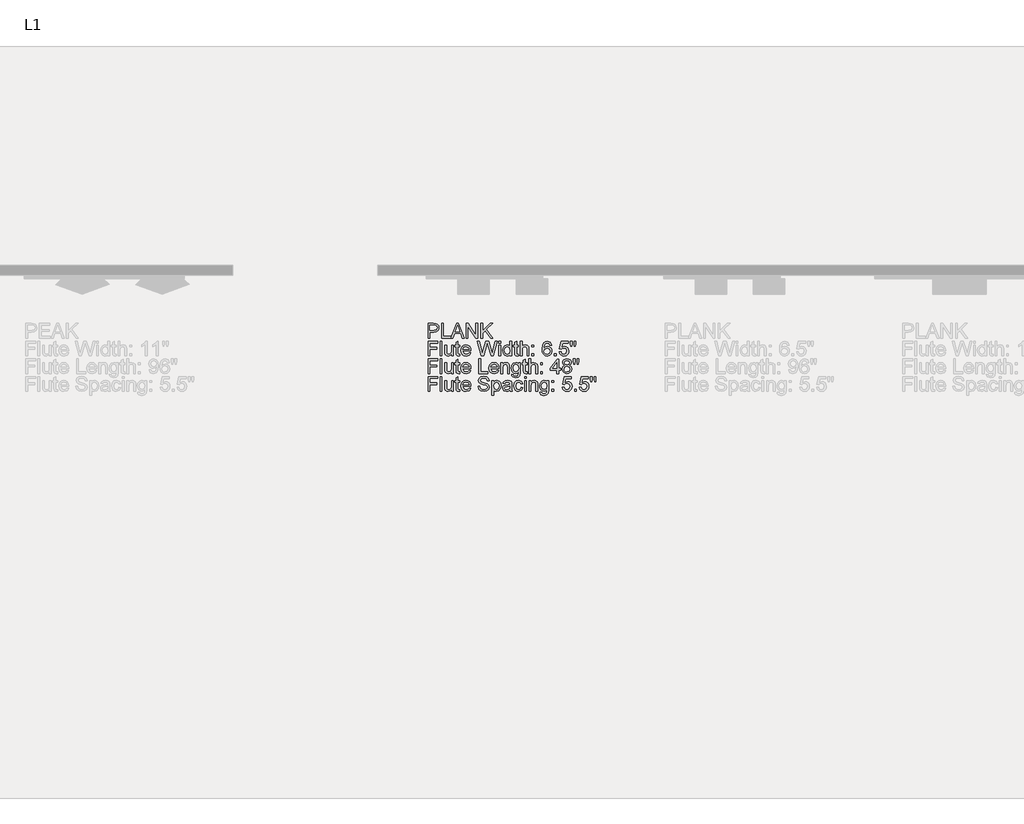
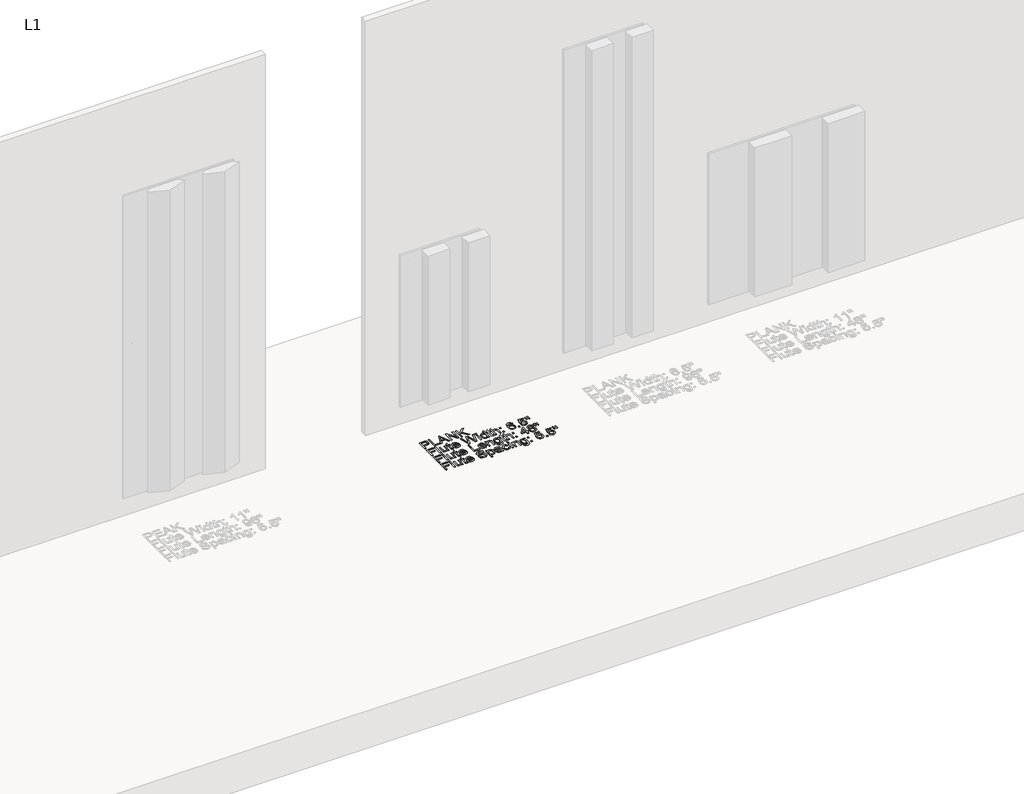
# One storey, part 12 of 17: 1 proxy.
"""IFC4 building model written with IfcOpenShell, lengths in millimetres."""

from ifc_helpers import new_model, si_unit, origin, origin_with_axes, place, context, project, spatial, polyline, outline, extrude, element, save

model = new_model("IFC4")

# Units and contexts
model_context = context("Model", 3, world=origin())
ifc_project = project(units=[si_unit("LENGTHUNIT", "METRE", prefix="MILLI")], contexts=[model_context])

# Site, building, storey
site = spatial("IfcSite", under=ifc_project)
building = spatial("IfcBuilding", under=site)
storey = spatial("IfcBuildingStorey", under=building, Name="L1", Elevation=0.0)

# Proxy
placement = place(None, origin())
element("IfcBuildingElementProxy", 1, Name="3\" Arial", ObjectType="3\" Arial", at=placement, inside=storey, context=model_context, shape_type="SweptSolid", body=[
    extrude(outline(polyline([(13654.5224056, -355.6), (13654.5224056, -279.0522917), (13682.8914049, -279.0522917), (13694.328709, -279.7811395), (13703.6261907, -283.3599691), (13709.6532014, -290.7605776), (13711.9331868, -301.198052), (13710.3937295, -310.2198797), (13705.7753573, -317.7372908), (13697.138978, -322.8111928), (13683.5454991, -324.5024935), (13664.0908691, -324.5024935), (13664.0908691, -355.6), (13654.5224056, -355.6)]), holes=[polyline([(13664.0908691, -314.9340299), (13684.1061513, -314.9340299), (13698.1972089, -311.4206097), (13702.3647233, -301.5344433), (13699.907198, -293.6105594), (13693.450354, -289.2748494), (13683.8818904, -288.6207552), (13664.0908691, -288.6207552), (13664.0908691, -314.9340299)])]), origin_with_axes(), (0.0, 0.0, 1.0), 3.175),
    extrude(outline(polyline([(13725.0898242, -355.6), (13725.0898242, -279.0522917), (13734.6582878, -279.0522917), (13734.6582878, -346.0315365), (13772.9321419, -346.0315365), (13772.9321419, -355.6), (13725.0898242, -355.6)])), origin_with_axes(), (0.0, 0.0, 1.0), 3.175),
    extrude(outline(polyline([(13774.8009825, -355.6), (13805.3565252, -279.0522917), (13813.50467, -279.0522917), (13844.0415243, -355.6), (13833.931097, -355.6), (13825.1849233, -331.6788411), (13793.6388951, -331.6788411), (13784.8927214, -355.6), (13774.8009825, -355.6)]), holes=[polyline([(13797.1523153, -322.1103776), (13821.6901915, -322.1103776), (13814.7754815, -303.2911534), (13809.4119092, -288.6207552), (13804.6463658, -301.6465737), (13797.1523153, -322.1103776)])]), origin_with_axes(), (0.0, 0.0, 1.0), 3.175),
    extrude(outline(polyline([(13854.264082, -355.6), (13854.264082, -279.0522917), (13864.5053282, -279.0522917), (13904.4985156, -339.696167), (13904.4985156, -279.0522917), (13914.0669792, -279.0522917), (13914.0669792, -355.6), (13903.825733, -355.6), (13863.8325456, -294.9374362), (13863.8325456, -355.6), (13854.264082, -355.6)])), origin_with_axes(), (0.0, 0.0, 1.0), 3.175),
    extrude(outline(polyline([(13930.8117904, -355.6), (13930.8117904, -279.0522917), (13940.3802539, -279.0522917), (13940.3802539, -316.5225444), (13979.6259052, -279.0522917), (13993.0068034, -279.0522917), (13960.0404563, -310.5235663), (13994.2028613, -355.6), (13982.5039196, -355.6), (13953.2565652, -316.9897545), (13940.3802539, -329.2867253), (13940.3802539, -355.6), (13930.8117904, -355.6)])), origin_with_axes(), (0.0, 0.0, 1.0), 3.175),
    extrude(outline(polyline([(13654.5224056, -448.5448112), (13654.5224056, -371.9971029), (13705.9528971, -371.9971029), (13705.9528971, -381.5655664), (13664.0908691, -381.5655664), (13664.0908691, -404.2906673), (13699.9726074, -404.2906673), (13699.9726074, -413.8591309), (13664.0908691, -413.8591309), (13664.0908691, -448.5448112), (13654.5224056, -448.5448112)])), origin_with_axes(), (0.0, 0.0, 1.0), 3.175),
    extrude(outline(polyline([(13717.9134766, -448.5448112), (13717.9134766, -371.9971029), (13727.4819401, -371.9971029), (13727.4819401, -448.5448112), (13717.9134766, -448.5448112)])), origin_with_axes(), (0.0, 0.0, 1.0), 3.175),
    extrude(outline(polyline([(13777.7163737, -448.5448112), (13777.7163737, -438.8829056), (13770.2223232, -447.0263783), (13760.4482872, -449.7408691), (13751.44982, -447.8346518), (13745.2452694, -443.05042), (13742.3952876, -436.0048912), (13741.8346354, -427.1092103), (13741.8346354, -392.3300879), (13751.403099, -392.3300879), (13751.403099, -422.6053046), (13751.9824395, -432.3606522), (13755.7668416, -438.0886484), (13762.8964683, -440.1724056), (13770.8857615, -438.0419274), (13776.1652361, -432.2391775), (13777.7163737, -421.5774423), (13777.7163737, -392.3300879), (13787.2848372, -392.3300879), (13787.2848372, -448.5448112), (13777.7163737, -448.5448112)])), origin_with_axes(), (0.0, 0.0, 1.0), 3.175),
    extrude(outline(polyline([(13820.7744596, -440.5648621), (13821.9705176, -448.8251373), (13814.8128583, -449.7408691), (13806.7955324, -448.1523547), (13802.7962137, -443.9848403), (13801.6375326, -433.1268768), (13801.6375326, -401.8985514), (13794.4611849, -401.8985514), (13794.4611849, -392.3300879), (13801.6375326, -392.3300879), (13801.6375326, -378.6688636), (13811.2059961, -373.0436536), (13811.2059961, -392.3300879), (13820.7744596, -392.3300879), (13820.7744596, -401.8985514), (13811.2059961, -401.8985514), (13811.2059961, -432.8465507), (13811.710583, -437.7802897), (13813.3458185, -439.5276556), (13816.6069452, -440.1724056), (13820.7744596, -440.5648621)])), origin_with_axes(), (0.0, 0.0, 1.0), 3.175),
    extrude(outline(polyline([(13869.7007049, -431.8), (13879.0822843, -432.9960579), (13870.308078, -445.3490939), (13853.9650675, -449.7408691), (13842.738008, -447.846332), (13834.0992927, -442.1627208), (13828.5908852, -433.0591313), (13826.7547494, -420.9046597), (13828.6095736, -408.3413792), (13834.1740463, -398.9457834), (13842.6959591, -393.0869683), (13853.4231038, -391.1340299), (13863.8161932, -393.0822962), (13872.1208533, -398.927095), (13877.5661875, -408.3040024), (13879.3812988, -420.8485945), (13879.3252336, -423.4275944), (13836.3232129, -423.4275944), (13841.8269483, -435.855384), (13854.1519516, -440.1724056), (13863.5335311, -438.1727462), (13869.7007049, -431.8)]), holes=[polyline([(13836.3232129, -413.8591309), (13869.8128353, -413.8591309), (13865.9817122, -405.1877108), (13853.385727, -400.7024935), (13841.6026874, -404.2813231), (13836.3232129, -413.8591309)])]), origin_with_axes(), (0.0, 0.0, 1.0), 3.175),
    extrude(outline(polyline([(13933.74587, -448.5448112), (13912.8709212, -371.9971029), (13922.7383993, -371.9971029), (13934.8484859, -422.3062901), (13938.586167, -437.8363549), (13942.5854857, -424.100377), (13957.7604709, -371.9971029), (13971.9823474, -371.9971029), (13983.0085065, -409.7663701), (13991.2127165, -437.8363549), (13994.8382671, -422.7548118), (14007.0417958, -371.9971029), (14016.9279622, -371.9971029), (13996.0717019, -448.5448112), (13985.8304557, -448.5448112), (13967.4597533, -389.4894503), (13964.8994417, -381.2478635), (13962.0214273, -391.1714068), (13945.2953045, -448.5448112), (13933.74587, -448.5448112)])), origin_with_axes(), (0.0, 0.0, 1.0), 3.175),
    extrude(outline(polyline([(14025.3003678, -381.5655664), (14025.3003678, -371.9971029), (14034.8688314, -371.9971029), (14034.8688314, -381.5655664), (14025.3003678, -381.5655664)])), origin_with_axes(), (0.0, 0.0, 1.0), 3.175),
    extrude(outline(polyline([(14025.3003678, -448.5448112), (14025.3003678, -392.3300879), (14034.8688314, -392.3300879), (14034.8688314, -448.5448112), (14025.3003678, -448.5448112)])), origin_with_axes(), (0.0, 0.0, 1.0), 3.175),
    extrude(outline(polyline([(14083.907207, -448.5448112), (14083.907207, -439.5183114), (14077.5765097, -447.1852297), (14068.8256639, -449.7408691), (14056.9772149, -446.0405649), (14048.6048093, -435.7152209), (14045.6333529, -420.4935148), (14048.3712043, -405.2624644), (14056.5754142, -394.778269), (14068.7882871, -391.1340299), (14077.6092144, -393.7410625), (14083.907207, -400.5156094), (14083.907207, -371.9971029), (14093.4756706, -371.9971029), (14093.4756706, -448.5448112), (14083.907207, -448.5448112)]), holes=[polyline([(14055.2018164, -420.4561379), (14059.518838, -435.2666992), (14069.704019, -440.1724056), (14079.7677252, -435.4909601), (14083.907207, -421.1849858), (14079.6929716, -405.6549209), (14069.3115625, -400.7024935), (14059.238512, -405.4586927), (14055.2018164, -420.4561379)])]), origin_with_axes(), (0.0, 0.0, 1.0), 3.175),
    extrude(outline(polyline([(14128.1613509, -440.5648621), (14129.3574089, -448.8251373), (14122.1997496, -449.7408691), (14114.1824237, -448.1523547), (14110.183105, -443.9848403), (14109.0244238, -433.1268768), (14109.0244238, -401.8985514), (14101.8480762, -401.8985514), (14101.8480762, -392.3300879), (14109.0244238, -392.3300879), (14109.0244238, -378.6688636), (14118.5928874, -373.0436536), (14118.5928874, -392.3300879), (14128.1613509, -392.3300879), (14128.1613509, -401.8985514), (14118.5928874, -401.8985514), (14118.5928874, -432.8465507), (14119.0974743, -437.7802897), (14120.7327098, -439.5276556), (14123.9938365, -440.1724056), (14128.1613509, -440.5648621)])), origin_with_axes(), (0.0, 0.0, 1.0), 3.175),
    extrude(outline(polyline([(14137.7298145, -448.5448112), (14137.7298145, -371.9971029), (14147.298278, -371.9971029), (14147.298278, -400.1418413), (14154.7596238, -393.3859828), (14163.9496472, -391.1340299), (14174.6954802, -393.5915553), (14181.2177337, -400.3847906), (14183.1800163, -412.9620874), (14183.1800163, -448.5448112), (14173.6115527, -448.5448112), (14173.6115527, -413.9525729), (14170.5653427, -403.860834), (14161.9312994, -400.7024935), (14154.0915133, -402.8329717), (14148.8587598, -408.607689), (14147.298278, -418.6807394), (14147.298278, -448.5448112), (14137.7298145, -448.5448112)])), origin_with_axes(), (0.0, 0.0, 1.0), 3.175),
    extrude(outline(polyline([(14198.7287695, -401.8985514), (14198.7287695, -392.3300879), (14208.2972331, -392.3300879), (14208.2972331, -401.8985514), (14198.7287695, -401.8985514)])), origin_with_axes(), (0.0, 0.0, 1.0), 3.175),
    extrude(outline(polyline([(14198.7287695, -448.5448112), (14198.7287695, -438.9763477), (14208.2972331, -438.9763477), (14208.2972331, -448.5448112), (14198.7287695, -448.5448112)])), origin_with_axes(), (0.0, 0.0, 1.0), 3.175),
    extrude(outline(polyline([(14302.7858106, -392.3300879), (14293.217347, -393.5261458), (14289.5917964, -385.5461967), (14280.0046444, -381.5655664), (14271.3706012, -383.8829287), (14264.8390035, -392.5823814), (14262.1198405, -409.6355512), (14270.5576555, -402.0013377), (14281.0138183, -399.5064355), (14289.853434, -401.2117525), (14297.272731, -406.3277035), (14302.3045841, -414.144129), (14303.9818685, -423.9508698), (14300.823528, -437.1542281), (14292.1334195, -446.4984308), (14279.5934995, -449.7408691), (14268.737872, -447.5917025), (14260.0921485, -441.1442027), (14254.4365698, -429.7629638), (14252.551377, -412.8125802), (14254.6444784, -393.7550788), (14260.9237826, -380.7245882), (14269.4970885, -374.1789742), (14280.6026734, -371.9971029), (14295.7215933, -377.398052), (14302.7858106, -392.3300879)]), holes=[polyline([(14262.1198405, -423.8013625), (14264.3344165, -432.0896703), (14270.2212642, -438.1073368), (14278.8459633, -440.1724056), (14290.1244159, -435.8927608), (14294.413405, -424.2685726), (14290.1804811, -413.1396273), (14278.4535068, -409.0748991), (14266.8760397, -413.1396273), (14262.1198405, -423.8013625)])]), origin_with_axes(), (0.0, 0.0, 1.0), 3.175),
    extrude(outline(polyline([(14317.1385059, -448.5448112), (14317.1385059, -438.9763477), (14326.7069694, -438.9763477), (14326.7069694, -448.5448112), (14317.1385059, -448.5448112)])), origin_with_axes(), (0.0, 0.0, 1.0), 3.175),
    extrude(outline(polyline([(14342.2557227, -428.2118262), (14351.8241862, -427.0157682), (14356.6457948, -436.8739021), (14366.6440917, -440.1724056), (14378.6420479, -435.5844021), (14382.9216927, -423.408906), (14378.9130298, -412.0463555), (14366.7935989, -407.8788411), (14358.3931607, -409.5421092), (14353.0202441, -413.8591309), (14343.4517806, -412.6630729), (14351.8241862, -373.1931608), (14388.9019824, -373.1931608), (14388.9019824, -382.7616243), (14359.561186, -382.7616243), (14355.4497368, -403.8421456), (14369.4473525, -398.3103776), (14378.3897544, -400.0250388), (14385.8183955, -405.1690224), (14390.8222161, -413.0088084), (14392.4901563, -422.810877), (14390.9904117, -432.3793406), (14386.4911781, -440.5648621), (14377.8758233, -447.4468674), (14366.6067148, -449.7408691), (14357.208783, -448.2668212), (14349.7217406, -443.8446773), (14344.5894373, -436.9883685), (14342.2557227, -428.2118262)])), origin_with_axes(), (0.0, 0.0, 1.0), 3.175),
    extrude(outline(polyline([(14403.1986125, -399.5064355), (14400.8625619, -384.7239069), (14400.8625619, -371.9971029), (14410.4310254, -371.9971029), (14410.4310254, -384.7239069), (14408.337924, -399.5064355), (14403.1986125, -399.5064355)])), origin_with_axes(), (0.0, 0.0, 1.0), 3.175),
    extrude(outline(polyline([(14422.2794744, -399.5064355), (14419.9994889, -384.7239069), (14419.9994889, -371.9971029), (14429.5679525, -371.9971029), (14429.5679525, -384.7239069), (14427.3253438, -399.5064355), (14422.2794744, -399.5064355)])), origin_with_axes(), (0.0, 0.0, 1.0), 3.175),
    extrude(outline(polyline([(13654.5224056, -541.4896224), (13654.5224056, -464.9419141), (13705.9528971, -464.9419141), (13705.9528971, -474.5103776), (13664.0908691, -474.5103776), (13664.0908691, -497.2354785), (13699.9726074, -497.2354785), (13699.9726074, -506.8039421), (13664.0908691, -506.8039421), (13664.0908691, -541.4896224), (13654.5224056, -541.4896224)])), origin_with_axes(), (0.0, 0.0, 1.0), 3.175),
    extrude(outline(polyline([(13717.9134766, -541.4896224), (13717.9134766, -464.9419141), (13727.4819401, -464.9419141), (13727.4819401, -541.4896224), (13717.9134766, -541.4896224)])), origin_with_axes(), (0.0, 0.0, 1.0), 3.175),
    extrude(outline(polyline([(13777.7163737, -541.4896224), (13777.7163737, -531.8277168), (13770.2223232, -539.9711895), (13760.4482872, -542.6856803), (13751.44982, -540.779463), (13745.2452694, -535.9952312), (13742.3952876, -528.9497024), (13741.8346354, -520.0540215), (13741.8346354, -485.2748991), (13751.403099, -485.2748991), (13751.403099, -515.5501158), (13751.9824395, -525.3054634), (13755.7668416, -531.0334596), (13762.8964683, -533.1172168), (13770.8857615, -530.9867386), (13776.1652361, -525.1839887), (13777.7163737, -514.5222535), (13777.7163737, -485.2748991), (13787.2848372, -485.2748991), (13787.2848372, -541.4896224), (13777.7163737, -541.4896224)])), origin_with_axes(), (0.0, 0.0, 1.0), 3.175),
    extrude(outline(polyline([(13820.7744596, -533.5096733), (13821.9705176, -541.7699485), (13814.8128583, -542.6856803), (13806.7955324, -541.0971659), (13802.7962137, -536.9296515), (13801.6375326, -526.071688), (13801.6375326, -494.8433626), (13794.4611849, -494.8433626), (13794.4611849, -485.2748991), (13801.6375326, -485.2748991), (13801.6375326, -471.6136748), (13811.2059961, -465.9884648), (13811.2059961, -485.2748991), (13820.7744596, -485.2748991), (13820.7744596, -494.8433626), (13811.2059961, -494.8433626), (13811.2059961, -525.7913619), (13811.710583, -530.7251009), (13813.3458185, -532.4724668), (13816.6069452, -533.1172168), (13820.7744596, -533.5096733)])), origin_with_axes(), (0.0, 0.0, 1.0), 3.175),
    extrude(outline(polyline([(13869.7007049, -524.7448112), (13879.0822843, -525.9408691), (13870.308078, -538.2939051), (13853.9650675, -542.6856803), (13842.738008, -540.7911432), (13834.0992927, -535.107532), (13828.5908852, -526.0039425), (13826.7547494, -513.8494709), (13828.6095736, -501.2861904), (13834.1740463, -491.8905946), (13842.6959591, -486.0317795), (13853.4231038, -484.0788411), (13863.8161932, -486.0271074), (13872.1208533, -491.8719062), (13877.5661875, -501.2488136), (13879.3812988, -513.7934057), (13879.3252336, -516.3724056), (13836.3232129, -516.3724056), (13841.8269483, -528.8001952), (13854.1519516, -533.1172168), (13863.5335311, -531.1175574), (13869.7007049, -524.7448112)]), holes=[polyline([(13836.3232129, -506.8039421), (13869.8128353, -506.8039421), (13865.9817122, -498.132522), (13853.385727, -493.6473047), (13841.6026874, -497.2261343), (13836.3232129, -506.8039421)])]), origin_with_axes(), (0.0, 0.0, 1.0), 3.175),
    extrude(outline(polyline([(13920.0472689, -541.4896224), (13920.0472689, -464.9419141), (13929.6157324, -464.9419141), (13929.6157324, -531.9211589), (13967.8895866, -531.9211589), (13967.8895866, -541.4896224), (13920.0472689, -541.4896224)])), origin_with_axes(), (0.0, 0.0, 1.0), 3.175),
    extrude(outline(polyline([(14016.8158318, -524.7448112), (14026.1974113, -525.9408691), (14017.423205, -538.2939051), (14001.0801945, -542.6856803), (13989.853135, -540.7911432), (13981.2144196, -535.107532), (13975.7060121, -526.0039425), (13973.8698763, -513.8494709), (13975.7247005, -501.2861904), (13981.2891732, -491.8905946), (13989.8110861, -486.0317795), (14000.5382307, -484.0788411), (14010.9313202, -486.0271074), (14019.2359803, -491.8719062), (14024.6813144, -501.2488136), (14026.4964258, -513.7934057), (14026.4403606, -516.3724056), (13983.4383398, -516.3724056), (13988.9420752, -528.8001952), (14001.2670786, -533.1172168), (14010.648658, -531.1175574), (14016.8158318, -524.7448112)]), holes=[polyline([(13983.4383398, -506.8039421), (14016.9279622, -506.8039421), (14013.0968391, -498.132522), (14000.5008539, -493.6473047), (13988.7178144, -497.2261343), (13983.4383398, -506.8039421)])]), origin_with_axes(), (0.0, 0.0, 1.0), 3.175),
    extrude(outline(polyline([(14036.0648893, -541.4896224), (14036.0648893, -485.2748991), (14045.6333529, -485.2748991), (14045.6333529, -493.1240293), (14052.9498636, -486.3401382), (14062.9388162, -484.0788411), (14071.9746602, -485.9009607), (14078.141834, -490.6851924), (14081.0105042, -497.7213771), (14081.5150911, -506.9721377), (14081.5150911, -541.4896224), (14071.9466276, -541.4896224), (14071.9466276, -508.2616377), (14070.8440117, -499.79579), (14066.9474792, -495.319917), (14060.3785047, -493.6473047), (14049.9970955, -497.4036742), (14045.6333529, -511.6629274), (14045.6333529, -541.4896224), (14036.0648893, -541.4896224)])), origin_with_axes(), (0.0, 0.0, 1.0), 3.175),
    extrude(outline(polyline([(14092.2796126, -546.2738542), (14101.8480762, -547.4699121), (14104.9503515, -552.5157816), (14114.2384889, -554.6462598), (14124.0312133, -552.2354555), (14128.7033147, -545.4702527), (14129.3574089, -534.3132747), (14122.6202387, -539.6955355), (14114.4066846, -541.4896224), (14104.5415426, -539.4011931), (14097.185319, -533.1359052), (14092.6089958, -523.950554), (14091.0835547, -513.1019347), (14093.8214061, -498.272685), (14101.7452899, -487.7791454), (14113.9394744, -484.0788411), (14122.4754036, -486.1719425), (14129.3574089, -492.4512467), (14129.3574089, -485.2748991), (14138.9258724, -485.2748991), (14138.9258724, -533.8086878), (14136.3094957, -552.3943069), (14128.0211879, -561.0376944), (14114.0516049, -564.2147233), (14098.1384277, -559.7388502), (14093.6415302, -554.1346647), (14092.2796126, -546.2738542)]), holes=[polyline([(14100.6520182, -512.4478405), (14104.7354348, -527.2584017), (14114.9860251, -531.9211589), (14125.2179271, -527.2864343), (14129.3574089, -512.7281666), (14125.0964524, -498.4595691), (14114.8365179, -493.6473047), (14104.7915, -498.3848154), (14100.6520182, -512.4478405)])]), origin_with_axes(), (0.0, 0.0, 1.0), 3.175),
    extrude(outline(polyline([(14173.6115527, -533.5096733), (14174.8076107, -541.7699485), (14167.6499514, -542.6856803), (14159.6326255, -541.0971659), (14155.6333068, -536.9296515), (14154.4746257, -526.071688), (14154.4746257, -494.8433626), (14147.298278, -494.8433626), (14147.298278, -485.2748991), (14154.4746257, -485.2748991), (14154.4746257, -471.6136748), (14164.0430892, -465.9884648), (14164.0430892, -485.2748991), (14173.6115527, -485.2748991), (14173.6115527, -494.8433626), (14164.0430892, -494.8433626), (14164.0430892, -525.7913619), (14164.5476761, -530.7251009), (14166.1829116, -532.4724668), (14169.4440383, -533.1172168), (14173.6115527, -533.5096733)])), origin_with_axes(), (0.0, 0.0, 1.0), 3.175),
    extrude(outline(polyline([(14183.1800163, -541.4896224), (14183.1800163, -464.9419141), (14192.7484798, -464.9419141), (14192.7484798, -493.0866525), (14200.2098257, -486.330794), (14209.399849, -484.0788411), (14220.1456821, -486.5363664), (14226.6679355, -493.3296018), (14228.6302181, -505.9068986), (14228.6302181, -541.4896224), (14219.0617546, -541.4896224), (14219.0617546, -506.8973841), (14216.0155445, -496.8056452), (14207.3815012, -493.6473047), (14199.5417152, -495.7777829), (14194.3089617, -501.5525002), (14192.7484798, -511.6255506), (14192.7484798, -541.4896224), (14183.1800163, -541.4896224)])), origin_with_axes(), (0.0, 0.0, 1.0), 3.175),
    extrude(outline(polyline([(14244.1789714, -494.8433626), (14244.1789714, -485.2748991), (14253.7474349, -485.2748991), (14253.7474349, -494.8433626), (14244.1789714, -494.8433626)])), origin_with_axes(), (0.0, 0.0, 1.0), 3.175),
    extrude(outline(polyline([(14244.1789714, -541.4896224), (14244.1789714, -531.9211589), (14253.7474349, -531.9211589), (14253.7474349, -541.4896224), (14244.1789714, -541.4896224)])), origin_with_axes(), (0.0, 0.0, 1.0), 3.175),
    extrude(outline(polyline([(14330.2951432, -541.4896224), (14330.2951432, -523.5487533), (14295.6094629, -523.5487533), (14295.6094629, -513.9802897), (14332.6872591, -466.137972), (14339.8636068, -466.137972), (14339.8636068, -513.9802897), (14349.4320703, -513.9802897), (14349.4320703, -523.5487533), (14339.8636068, -523.5487533), (14339.8636068, -541.4896224), (14330.2951432, -541.4896224)]), holes=[polyline([(14330.2951432, -513.9802897), (14330.2951432, -484.4152324), (14307.3831583, -513.9802897), (14330.2951432, -513.9802897)])]), origin_with_axes(), (0.0, 0.0, 1.0), 3.175),
    extrude(outline(polyline([(14371.7460263, -499.3285799), (14363.0278852, -493.385667), (14360.1965918, -484.1349064), (14361.7383852, -476.6548721), (14366.3637656, -470.473682), (14373.5541295, -466.3248561), (14382.7908739, -464.9419141), (14392.0836834, -466.3575608), (14399.3674894, -470.6045009), (14404.0769676, -476.8838051), (14405.6467936, -484.396544), (14402.852877, -493.4136996), (14394.3776852, -499.3285799), (14404.5535219, -506.8319747), (14408.0389095, -519.2130432), (14406.310232, -528.3610176), (14401.1241995, -535.9204776), (14393.1162178, -540.9943797), (14382.9216927, -542.6856803), (14372.7271676, -540.9873715), (14364.7191859, -535.892445), (14359.5331534, -528.2605675), (14357.8044759, -518.9514055), (14361.4300266, -506.2806667), (14371.7460263, -499.3285799)]), holes=[polyline([(14369.7650553, -484.4152324), (14373.1570009, -491.9279714), (14383.0338231, -494.8433626), (14392.7144171, -491.9466598), (14396.0783301, -484.8450658), (14392.6022867, -477.4911783), (14382.9216927, -474.5103776), (14373.2130661, -477.4257688), (14369.7650553, -484.4152324)]), polyline([(14367.3729395, -518.6150142), (14368.9707981, -525.8193945), (14374.6240407, -531.2109995), (14382.9964463, -533.1172168), (14394.3963736, -529.1085538), (14398.470446, -518.9140287), (14394.2655548, -508.5232753), (14382.6787434, -504.4118262), (14371.4189792, -508.4672101), (14367.3729395, -518.6150142)])]), origin_with_axes(), (0.0, 0.0, 1.0), 3.175),
    extrude(outline(polyline([(14418.7473658, -492.4512467), (14416.4113151, -477.6687181), (14416.4113151, -464.9419141), (14425.9797787, -464.9419141), (14425.9797787, -477.6687181), (14423.8866773, -492.4512467), (14418.7473658, -492.4512467)])), origin_with_axes(), (0.0, 0.0, 1.0), 3.175),
    extrude(outline(polyline([(14437.8282276, -492.4512467), (14435.5482422, -477.6687181), (14435.5482422, -464.9419141), (14445.1167057, -464.9419141), (14445.1167057, -477.6687181), (14442.8740971, -492.4512467), (14437.8282276, -492.4512467)])), origin_with_axes(), (0.0, 0.0, 1.0), 3.175),
    extrude(outline(polyline([(13654.5224056, -634.4344336), (13654.5224056, -557.8867253), (13705.9528971, -557.8867253), (13705.9528971, -567.4551888), (13664.0908691, -567.4551888), (13664.0908691, -590.1802897), (13699.9726074, -590.1802897), (13699.9726074, -599.7487533), (13664.0908691, -599.7487533), (13664.0908691, -634.4344336), (13654.5224056, -634.4344336)])), origin_with_axes(), (0.0, 0.0, 1.0), 3.175),
    extrude(outline(polyline([(13717.9134766, -634.4344336), (13717.9134766, -557.8867253), (13727.4819401, -557.8867253), (13727.4819401, -634.4344336), (13717.9134766, -634.4344336)])), origin_with_axes(), (0.0, 0.0, 1.0), 3.175),
    extrude(outline(polyline([(13777.7163737, -634.4344336), (13777.7163737, -624.772528), (13770.2223232, -632.9160007), (13760.4482872, -635.6304915), (13751.44982, -633.7242742), (13745.2452694, -628.9400424), (13742.3952876, -621.8945136), (13741.8346354, -612.9988327), (13741.8346354, -578.2197103), (13751.403099, -578.2197103), (13751.403099, -608.494927), (13751.9824395, -618.2502746), (13755.7668416, -623.9782708), (13762.8964683, -626.062028), (13770.8857615, -623.9315498), (13776.1652361, -618.1287999), (13777.7163737, -607.4670647), (13777.7163737, -578.2197103), (13787.2848372, -578.2197103), (13787.2848372, -634.4344336), (13777.7163737, -634.4344336)])), origin_with_axes(), (0.0, 0.0, 1.0), 3.175),
    extrude(outline(polyline([(13820.7744596, -626.4544845), (13821.9705176, -634.7147597), (13814.8128583, -635.6304915), (13806.7955324, -634.0419771), (13802.7962137, -629.8744627), (13801.6375326, -619.0164992), (13801.6375326, -587.7881738), (13794.4611849, -587.7881738), (13794.4611849, -578.2197103), (13801.6375326, -578.2197103), (13801.6375326, -564.558486), (13811.2059961, -558.933276), (13811.2059961, -578.2197103), (13820.7744596, -578.2197103), (13820.7744596, -587.7881738), (13811.2059961, -587.7881738), (13811.2059961, -618.7361731), (13811.710583, -623.6699121), (13813.3458185, -625.417278), (13816.6069452, -626.062028), (13820.7744596, -626.4544845)])), origin_with_axes(), (0.0, 0.0, 1.0), 3.175),
    extrude(outline(polyline([(13869.7007049, -617.6896224), (13879.0822843, -618.8856803), (13870.308078, -631.2387163), (13853.9650675, -635.6304915), (13842.738008, -633.7359544), (13834.0992927, -628.0523432), (13828.5908852, -618.9487537), (13826.7547494, -606.7942821), (13828.6095736, -594.2310016), (13834.1740463, -584.8354058), (13842.6959591, -578.9765907), (13853.4231038, -577.0236523), (13863.8161932, -578.9719186), (13872.1208533, -584.8167174), (13877.5661875, -594.1936248), (13879.3812988, -606.7382169), (13879.3252336, -609.3172168), (13836.3232129, -609.3172168), (13841.8269483, -621.7450064), (13854.1519516, -626.062028), (13863.5335311, -624.0623686), (13869.7007049, -617.6896224)]), holes=[polyline([(13836.3232129, -599.7487533), (13869.8128353, -599.7487533), (13865.9817122, -591.0773332), (13853.385727, -586.5921159), (13841.6026874, -590.1709455), (13836.3232129, -599.7487533)])]), origin_with_axes(), (0.0, 0.0, 1.0), 3.175),
    extrude(outline(polyline([(13916.4590951, -608.1211589), (13926.0275586, -608.1211589), (13929.1111455, -617.6989666), (13936.6425728, -623.7540099), (13948.1172537, -626.062028), (13958.1155506, -624.3146621), (13964.5723946, -619.5117419), (13966.6935286, -613.0922747), (13965.1050142, -607.1213292), (13958.6014491, -602.7762749), (13944.6692429, -599.1226917), (13929.6717976, -594.4038693), (13921.5329971, -587.2835869), (13918.8512109, -577.7711886), (13922.1684029, -566.9412577), (13931.8583411, -559.2976999), (13946.0428407, -556.6906673), (13961.1804491, -559.4191745), (13971.272188, -567.4365004), (13975.0659342, -579.4157682), (13965.4974707, -579.4157682), (13960.0778332, -569.585667), (13946.4166088, -566.2591309), (13932.7180077, -569.5482902), (13928.4196745, -577.4908625), (13931.4658846, -584.1252464), (13947.0893914, -589.4701303), (13964.0210867, -594.2730505), (13973.2811915, -602.0287387), (13976.2619922, -612.8493254), (13972.8326698, -624.2959737), (13962.9651918, -632.6496909), (13948.4910218, -635.6304915), (13931.4004751, -632.4160858), (13920.5892326, -622.7354918), (13916.4590951, -608.1211589)])), origin_with_axes(), (0.0, 0.0, 1.0), 3.175),
    extrude(outline(polyline([(13989.4186296, -655.9634766), (13989.4186296, -578.2197103), (13998.9870931, -578.2197103), (13998.9870931, -587.6012898), (14005.6027886, -579.6680617), (14014.5358464, -577.0236523), (14026.6646214, -580.7239566), (14034.5885053, -591.1520868), (14037.2609473, -605.8972386), (14034.2427698, -621.3992709), (14025.4779077, -631.9582199), (14013.3771652, -635.6304915), (14005.0514806, -633.1729662), (13998.9870931, -626.9590715), (13998.9870931, -655.9634766), (13989.4186296, -655.9634766)]), holes=[polyline([(13998.9870931, -606.7755937), (14003.1265749, -621.3525498), (14013.1715928, -626.062028), (14023.4221831, -621.1843542), (14027.6924837, -606.0654343), (14023.5249693, -591.4511013), (14013.5640493, -586.5921159), (14003.406901, -591.75946), (13998.9870931, -606.7755937)])]), origin_with_axes(), (0.0, 0.0, 1.0), 3.175),
    extrude(outline(polyline([(14083.907207, -627.2580859), (14074.6284138, -633.7429626), (14064.3778234, -635.6304915), (14050.4829941, -631.089209), (14045.6333529, -619.4837093), (14047.4648166, -611.9149051), (14052.277081, -606.420514), (14058.9768743, -603.2808619), (14067.2558379, -601.8418547), (14083.8511418, -598.5526953), (14083.907207, -596.4222171), (14081.2721419, -589.3579999), (14070.6945044, -586.5921159), (14061.0139105, -588.4329238), (14056.3978744, -594.9645215), (14046.8294108, -593.7684635), (14050.9688926, -584.4242609), (14059.3039214, -578.9485581), (14071.9279392, -577.0236523), (14083.5240947, -578.7242972), (14090.0743808, -582.9945979), (14093.0084604, -589.4888187), (14093.4756706, -597.8612243), (14093.4756706, -609.7657385), (14093.9615691, -626.3890751), (14095.8677865, -634.4344336), (14086.2993229, -634.4344336), (14083.907207, -627.2580859)]), holes=[polyline([(14083.907207, -608.1211589), (14068.4705842, -611.0552385), (14060.2383417, -612.6063761), (14056.5100048, -615.1293109), (14055.2018164, -618.8109267), (14058.0517982, -623.987615), (14066.4148596, -626.062028), (14076.0954536, -623.7726983), (14082.337381, -618.2315862), (14083.8511418, -610.8309776), (14083.907207, -608.1211589)])]), origin_with_axes(), (0.0, 0.0, 1.0), 3.175),
    extrude(outline(polyline([(14142.5140462, -614.1014486), (14152.0825098, -615.2975065), (14144.4015752, -630.2388866), (14129.22659, -635.6304915), (14119.0484173, -633.7499707), (14111.0894926, -628.1084084), (14105.9525172, -618.9534258), (14104.2401921, -606.5326444), (14107.1649275, -590.6381556), (14116.0792969, -580.4249421), (14129.0957712, -577.0236523), (14143.6446948, -581.6957537), (14150.8864518, -594.9645215), (14141.3179883, -596.1605794), (14136.879492, -588.993576), (14129.1705248, -586.5921159), (14118.0789562, -591.3202824), (14113.8086556, -606.2710067), (14117.9855142, -621.361894), (14128.9088871, -626.062028), (14137.9260427, -623.1279484), (14142.5140462, -614.1014486)])), origin_with_axes(), (0.0, 0.0, 1.0), 3.175),
    extrude(outline(polyline([(14160.4549154, -567.4551888), (14160.4549154, -557.8867253), (14170.0233789, -557.8867253), (14170.0233789, -567.4551888), (14160.4549154, -567.4551888)])), origin_with_axes(), (0.0, 0.0, 1.0), 3.175),
    extrude(outline(polyline([(14160.4549154, -634.4344336), (14160.4549154, -578.2197103), (14170.0233789, -578.2197103), (14170.0233789, -634.4344336), (14160.4549154, -634.4344336)])), origin_with_axes(), (0.0, 0.0, 1.0), 3.175),
    extrude(outline(polyline([(14184.3760742, -634.4344336), (14184.3760742, -578.2197103), (14193.9445378, -578.2197103), (14193.9445378, -586.0688405), (14201.2610485, -579.2849494), (14211.2500011, -577.0236523), (14220.2858451, -578.8457719), (14226.4530189, -583.6300036), (14229.3216891, -590.6661883), (14229.826276, -599.9169489), (14229.826276, -634.4344336), (14220.2578125, -634.4344336), (14220.2578125, -601.2064489), (14219.1551966, -592.7406012), (14215.2586641, -588.2647282), (14208.6896896, -586.5921159), (14198.3082804, -590.3484854), (14193.9445378, -604.6077386), (14193.9445378, -634.4344336), (14184.3760742, -634.4344336)])), origin_with_axes(), (0.0, 0.0, 1.0), 3.175),
    extrude(outline(polyline([(14240.5907975, -639.2186654), (14250.1592611, -640.4147233), (14253.2615364, -645.4605928), (14262.5496738, -647.591071), (14272.3423982, -645.1802667), (14277.0144996, -638.4150639), (14277.6685938, -627.2580859), (14270.9314236, -632.6403467), (14262.7178695, -634.4344336), (14252.8527275, -632.3460043), (14245.4965039, -626.0807164), (14240.9201807, -616.8953652), (14239.3947396, -606.0467459), (14242.132591, -591.2174962), (14250.0564748, -580.7239566), (14262.2506593, -577.0236523), (14270.7865885, -579.1167537), (14277.6685938, -585.3960579), (14277.6685938, -578.2197103), (14287.2370573, -578.2197103), (14287.2370573, -626.753499), (14284.6206805, -645.3391181), (14276.3323728, -653.9825056), (14262.3627898, -657.1595345), (14246.4496126, -652.6836614), (14241.9527151, -647.0794759), (14240.5907975, -639.2186654)]), holes=[polyline([(14248.9632031, -605.3926517), (14253.0466197, -620.2032129), (14263.29721, -624.8659701), (14273.529112, -620.2312455), (14277.6685938, -605.6729778), (14273.4076373, -591.4043803), (14263.1477028, -586.5921159), (14253.1026849, -591.3296266), (14248.9632031, -605.3926517)])]), origin_with_axes(), (0.0, 0.0, 1.0), 3.175),
    extrude(outline(polyline([(14303.9818685, -587.7881738), (14303.9818685, -578.2197103), (14313.550332, -578.2197103), (14313.550332, -587.7881738), (14303.9818685, -587.7881738)])), origin_with_axes(), (0.0, 0.0, 1.0), 3.175),
    extrude(outline(polyline([(14303.9818685, -634.4344336), (14303.9818685, -624.8659701), (14313.550332, -624.8659701), (14313.550332, -634.4344336), (14303.9818685, -634.4344336)])), origin_with_axes(), (0.0, 0.0, 1.0), 3.175),
    extrude(outline(polyline([(14359.0005339, -614.1014486), (14368.5689974, -612.9053906), (14373.390606, -622.7635245), (14383.3889028, -626.062028), (14395.3868591, -621.4740245), (14399.6665039, -609.2985284), (14395.657841, -597.9359779), (14383.5384101, -593.7684635), (14375.1379719, -595.4317316), (14369.7650553, -599.7487533), (14360.1965918, -598.5526953), (14368.5689974, -559.0827832), (14405.6467936, -559.0827832), (14405.6467936, -568.6512467), (14376.3059972, -568.6512467), (14372.194548, -589.731768), (14386.1921637, -584.2), (14395.1345656, -585.9146612), (14402.5632067, -591.0586448), (14407.5670273, -598.8984308), (14409.2349675, -608.7004994), (14407.7352229, -618.268963), (14403.2359893, -626.4544845), (14394.6206345, -633.3364898), (14383.351526, -635.6304915), (14373.9535942, -634.1564436), (14366.4665518, -629.7342996), (14361.3342485, -622.8779909), (14359.0005339, -614.1014486)])), origin_with_axes(), (0.0, 0.0, 1.0), 3.175),
    extrude(outline(polyline([(14422.3916048, -634.4344336), (14422.3916048, -624.8659701), (14431.9600684, -624.8659701), (14431.9600684, -634.4344336), (14422.3916048, -634.4344336)])), origin_with_axes(), (0.0, 0.0, 1.0), 3.175),
    extrude(outline(polyline([(14447.5088216, -614.1014486), (14457.0772852, -612.9053906), (14461.8988937, -622.7635245), (14471.8971906, -626.062028), (14483.8951468, -621.4740245), (14488.1747917, -609.2985284), (14484.1661287, -597.9359779), (14472.0466979, -593.7684635), (14463.6462596, -595.4317316), (14458.2733431, -599.7487533), (14448.7048796, -598.5526953), (14457.0772852, -559.0827832), (14494.1550814, -559.0827832), (14494.1550814, -568.6512467), (14464.814285, -568.6512467), (14460.7028358, -589.731768), (14474.7004514, -584.2), (14483.6428534, -585.9146612), (14491.0714945, -591.0586448), (14496.075315, -598.8984308), (14497.7432552, -608.7004994), (14496.2435107, -618.268963), (14491.7442771, -626.4544845), (14483.1289222, -633.3364898), (14471.8598138, -635.6304915), (14462.461882, -634.1564436), (14454.9748396, -629.7342996), (14449.8425362, -622.8779909), (14447.5088216, -614.1014486)])), origin_with_axes(), (0.0, 0.0, 1.0), 3.175),
    extrude(outline(polyline([(14508.4517115, -585.3960579), (14506.1156608, -570.6135293), (14506.1156608, -557.8867253), (14515.6841244, -557.8867253), (14515.6841244, -570.6135293), (14513.591023, -585.3960579), (14508.4517115, -585.3960579)])), origin_with_axes(), (0.0, 0.0, 1.0), 3.175),
    extrude(outline(polyline([(14527.5325734, -585.3960579), (14525.2525879, -570.6135293), (14525.2525879, -557.8867253), (14534.8210514, -557.8867253), (14534.8210514, -570.6135293), (14532.5784428, -585.3960579), (14527.5325734, -585.3960579)])), origin_with_axes(), (0.0, 0.0, 1.0), 3.175),
])

save(model, "model.ifc")
